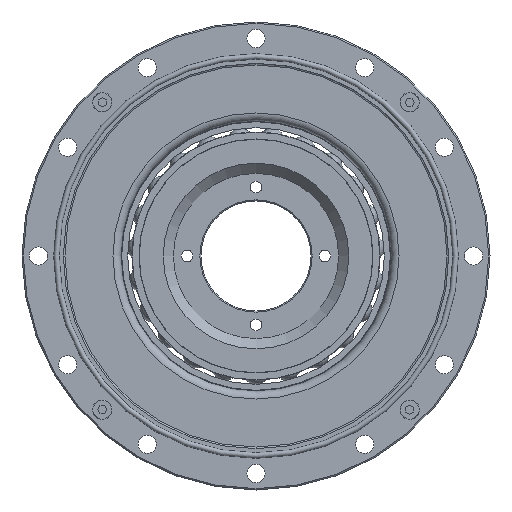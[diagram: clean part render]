
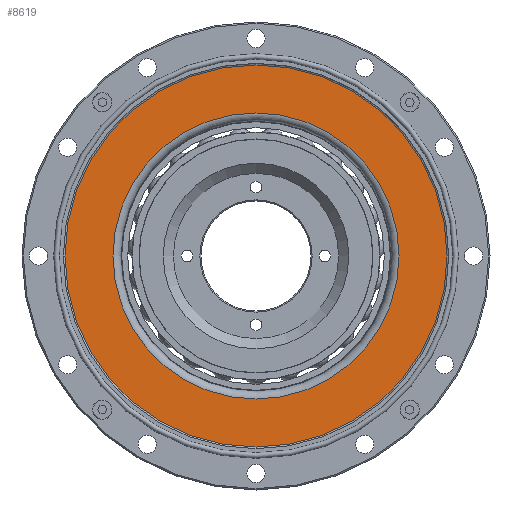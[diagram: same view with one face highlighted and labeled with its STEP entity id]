
A CAD part, left-side view. The second image highlights one B-rep face of the part: STEP entity #8619.
In plain terms, the highlighted planar face has unit normal (-1, 0, 0).
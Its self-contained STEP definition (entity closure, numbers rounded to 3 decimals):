
#192 = EDGE_LOOP ( 'NONE', ( #4722 ) ) ;
#1139 = FACE_OUTER_BOUND ( 'NONE', #3279, .T. ) ;
#1940 = VERTEX_POINT ( 'NONE', #10981 ) ;
#2191 = AXIS2_PLACEMENT_3D ( 'NONE', #11753, #4969, #12885 ) ;
#3170 = ORIENTED_EDGE ( 'NONE', *, *, #7960, .F. ) ;
#3279 = EDGE_LOOP ( 'NONE', ( #3170 ) ) ;
#3320 = EDGE_CURVE ( 'NONE', #1940, #1940, #11521, .T. ) ;
#3477 = AXIS2_PLACEMENT_3D ( 'NONE', #6397, #4149, #11563 ) ;
#4130 = FACE_BOUND ( 'NONE', #192, .T. ) ;
#4149 = DIRECTION ( 'NONE',  ( 1., 0., 0. ) ) ;
#4722 = ORIENTED_EDGE ( 'NONE', *, *, #3320, .T. ) ;
#4969 = DIRECTION ( 'NONE',  ( 1., 0., 0. ) ) ;
#5500 = DIRECTION ( 'NONE',  ( -1., 0., 0. ) ) ;
#6397 = CARTESIAN_POINT ( 'NONE',  ( -0.456, 0., 0. ) ) ;
#7541 = PLANE ( 'NONE',  #14465 ) ;
#7960 = EDGE_CURVE ( 'NONE', #8663, #8663, #8119, .T. ) ;
#8119 = CIRCLE ( 'NONE', #2191, 69.4 ) ;
#8619 = ADVANCED_FACE ( 'NONE', ( #4130, #1139 ), #7541, .T. ) ;
#8663 = VERTEX_POINT ( 'NONE', #14653 ) ;
#10981 = CARTESIAN_POINT ( 'NONE',  ( -0.456, 0., -51.975 ) ) ;
#11521 = CIRCLE ( 'NONE', #3477, 51.975 ) ;
#11563 = DIRECTION ( 'NONE',  ( 0., 0., -1. ) ) ;
#11753 = CARTESIAN_POINT ( 'NONE',  ( -0.456, 0., 0. ) ) ;
#12092 = CARTESIAN_POINT ( 'NONE',  ( -0.456, 0., 0. ) ) ;
#12885 = DIRECTION ( 'NONE',  ( 0., 0., -1. ) ) ;
#13431 = DIRECTION ( 'NONE',  ( 0., 0., 1. ) ) ;
#14465 = AXIS2_PLACEMENT_3D ( 'NONE', #12092, #5500, #13431 ) ;
#14653 = CARTESIAN_POINT ( 'NONE',  ( -0.456, 0., -69.4 ) ) ;
